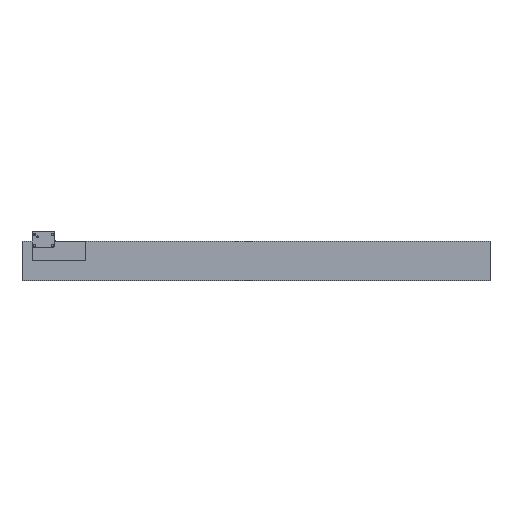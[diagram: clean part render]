
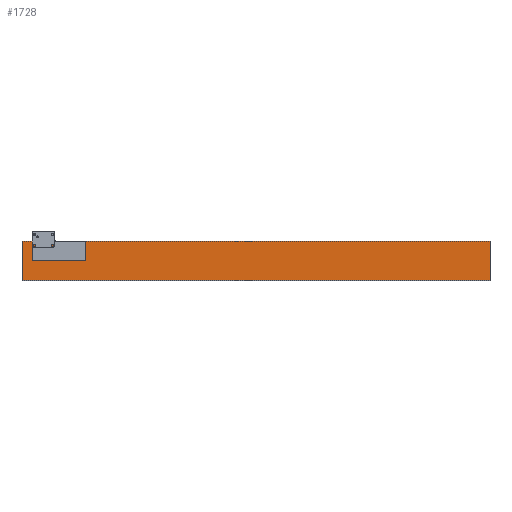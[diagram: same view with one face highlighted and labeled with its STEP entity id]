
A CAD part, top view. The second image highlights one B-rep face of the part: STEP entity #1728.
In plain terms, the highlighted planar face has unit normal (0, 0, 1).
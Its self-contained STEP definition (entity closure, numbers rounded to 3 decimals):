
#210=FACE_OUTER_BOUND('',#308,.T.);
#308=EDGE_LOOP('',(#1182,#1183,#1184,#1185));
#435=LINE('',#2559,#589);
#439=LINE('',#2567,#593);
#442=LINE('',#2573,#596);
#445=LINE('',#2578,#599);
#589=VECTOR('',#2031,10.);
#593=VECTOR('',#2037,10.);
#596=VECTOR('',#2042,10.);
#599=VECTOR('',#2047,10.);
#743=VERTEX_POINT('',#2557);
#744=VERTEX_POINT('',#2558);
#747=VERTEX_POINT('',#2566);
#749=VERTEX_POINT('',#2572);
#912=EDGE_CURVE('',#743,#744,#435,.T.);
#916=EDGE_CURVE('',#744,#747,#439,.T.);
#919=EDGE_CURVE('',#747,#749,#442,.T.);
#922=EDGE_CURVE('',#749,#743,#445,.T.);
#1182=ORIENTED_EDGE('',*,*,#922,.T.);
#1183=ORIENTED_EDGE('',*,*,#912,.T.);
#1184=ORIENTED_EDGE('',*,*,#916,.T.);
#1185=ORIENTED_EDGE('',*,*,#919,.T.);
#1678=PLANE('',#1845);
#1728=ADVANCED_FACE('',(#210),#1678,.T.);
#1845=AXIS2_PLACEMENT_3D('',#2580,#2049,#2050);
#2031=DIRECTION('',(1.,0.,0.));
#2037=DIRECTION('',(0.,1.,0.));
#2042=DIRECTION('',(-1.,0.,0.));
#2047=DIRECTION('',(0.,-1.,0.));
#2049=DIRECTION('center_axis',(0.,0.,1.));
#2050=DIRECTION('ref_axis',(1.,0.,0.));
#2557=CARTESIAN_POINT('',(0.,0.,0.));
#2558=CARTESIAN_POINT('',(836.,0.,0.));
#2559=CARTESIAN_POINT('',(0.,0.,0.));
#2566=CARTESIAN_POINT('',(836.,70.,0.));
#2567=CARTESIAN_POINT('',(836.,0.,0.));
#2572=CARTESIAN_POINT('',(0.,70.,0.));
#2573=CARTESIAN_POINT('',(836.,70.,0.));
#2578=CARTESIAN_POINT('',(0.,70.,0.));
#2580=CARTESIAN_POINT('Origin',(418.,35.,0.));
